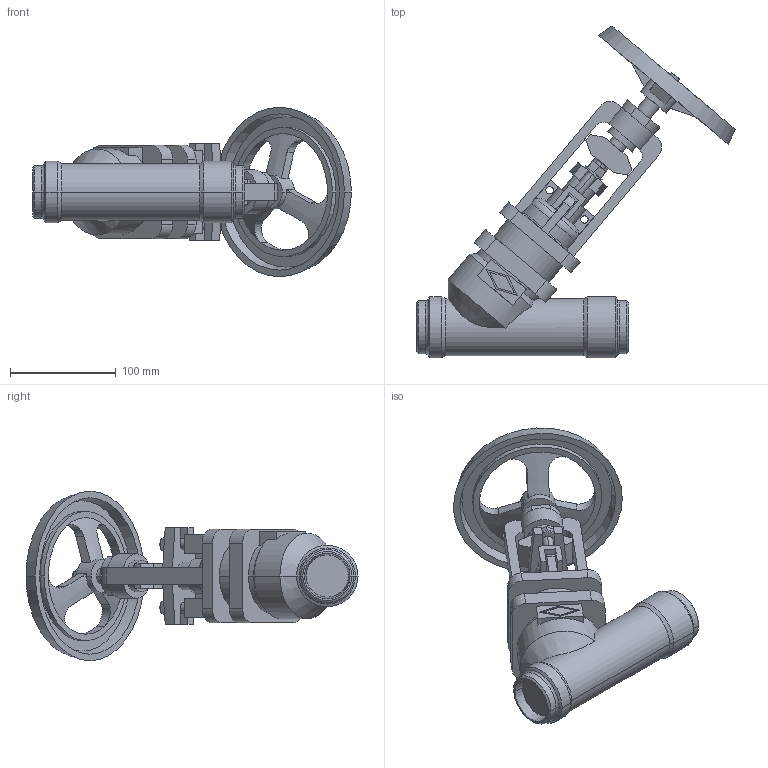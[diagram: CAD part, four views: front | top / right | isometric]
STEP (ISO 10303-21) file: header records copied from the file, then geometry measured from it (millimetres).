
FILE_DESCRIPTION(('OneSpaceDesigner STEP Export'),'2;1');
FILE_NAME('c000004361.stp','2010-05-11T 8:13:40',(''),(''),'OneSpace Designer STEP processor for AP214 (Solid Model)','OneSpace Modeling 15.50B 03-Nov-2007 (C) CoCreate Software GmbH','');
FILE_SCHEMA(('AUTOMOTIVE_DESIGN { 1 0 10303 214 1 1 1 1 }'));
Length unit declared in the file: millimetre
Products named in the file (1): 1
Bounding box: 300.8 x 313.32 x 160 mm (x, y, z)
Volume: 1321299.1 mm3; surface area: 178369.6 mm2
Topology: 1 solids, 1 shells, 292 faces, 763 edges, 494 vertices
Faces by surface type: plane 144, cylinder 89, cone 39, torus 20
Entity records: 11281 total; most frequent: CARTESIAN_POINT 2255, ORIENTED_EDGE 1526, DIRECTION 1232, EDGE_CURVE 763, VERTEX_POINT 494, VECTOR 426, LINE 426, AXIS2_PLACEMENT_3D 403
